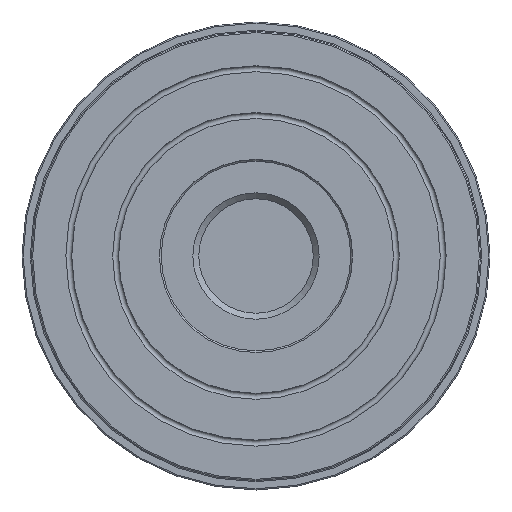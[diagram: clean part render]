
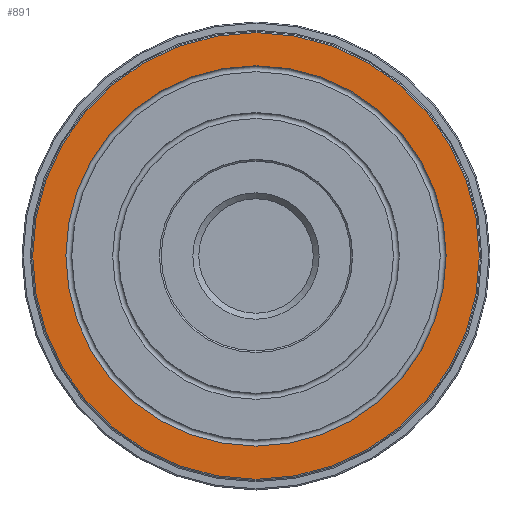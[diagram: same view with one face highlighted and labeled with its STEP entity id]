
A CAD part, top view. The second image highlights one B-rep face of the part: STEP entity #891.
In plain terms, the highlighted planar face has unit normal (0, 0, 1).
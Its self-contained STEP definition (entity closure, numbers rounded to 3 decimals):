
#891=ADVANCED_FACE('',(#1653,#1655),#1657,.T.);
#1653=FACE_BOUND('',#1654,.T.);
#1654=EDGE_LOOP('',(#4903));
#1655=FACE_BOUND('',#1656,.T.);
#1656=EDGE_LOOP('',(#4904));
#1657=PLANE('',#1658);
#1658=AXIS2_PLACEMENT_3D('',#1659,#1660,#1661);
#1659=CARTESIAN_POINT('',(0.,0.,0.));
#1660=DIRECTION('',(0.,0.,1.));
#1661=DIRECTION('',(0.,1.,0.));
#4903=ORIENTED_EDGE('',*,*,#5268,.F.);
#4904=ORIENTED_EDGE('',*,*,#5270,.T.);
#5268=EDGE_CURVE('',#5734,#5734,#5735,.T.);
#5270=EDGE_CURVE('',#5738,#5738,#5739,.T.);
#5734=VERTEX_POINT('',#8020);
#5735=CIRCLE('',#8021,37.7);
#5738=VERTEX_POINT('',#8030);
#5739=CIRCLE('',#8031,32.1);
#8020=CARTESIAN_POINT('',(0.,37.7,0.));
#8021=AXIS2_PLACEMENT_3D('',#8022,#8023,#8024);
#8022=CARTESIAN_POINT('',(0.,0.,0.));
#8023=DIRECTION('',(0.,0.,-1.));
#8024=DIRECTION('',(0.,1.,0.));
#8030=CARTESIAN_POINT('',(0.,32.1,0.));
#8031=AXIS2_PLACEMENT_3D('',#8032,#8033,#8034);
#8032=CARTESIAN_POINT('',(0.,0.,0.));
#8033=DIRECTION('',(0.,0.,-1.));
#8034=DIRECTION('',(0.,1.,0.));
